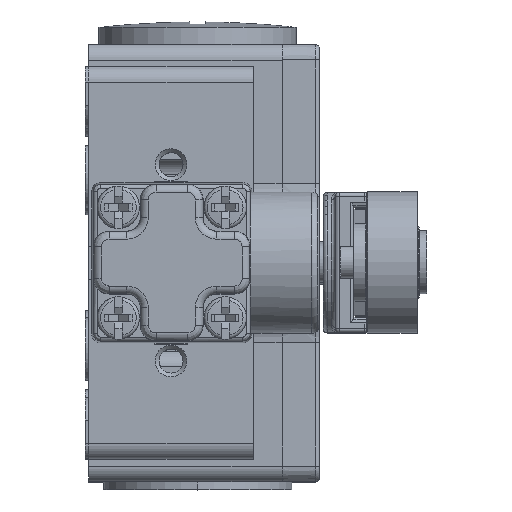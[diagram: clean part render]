
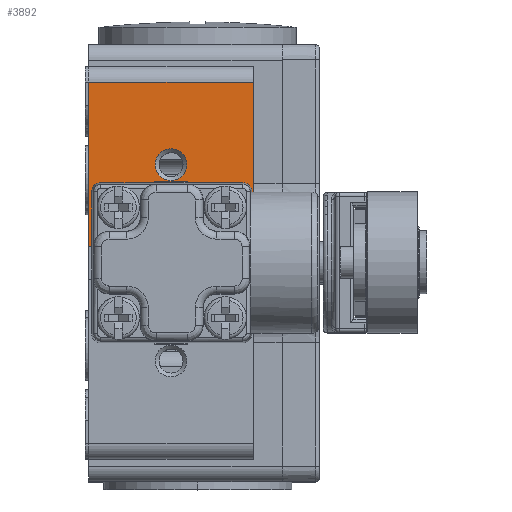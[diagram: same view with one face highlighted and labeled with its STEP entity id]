
A CAD part, top view. The second image highlights one B-rep face of the part: STEP entity #3892.
In plain terms, the highlighted planar face has unit normal (0, 0, 1).
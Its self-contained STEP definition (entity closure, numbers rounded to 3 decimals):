
#3892=ADVANCED_FACE('',(#6976,#6977),#5838,.T.);
#5838=PLANE('',#37318);
#6976=FACE_BOUND('',#7327,.T.);
#6977=FACE_BOUND('',#7328,.T.);
#7327=EDGE_LOOP('',(#11461));
#7328=EDGE_LOOP('',(#11462,#11463,#11464,#11465,#11466,#11467,#11468,#11469,
#11470,#11471,#11472,#11473,#11474,#11475,#11476,#11477,#11478,#11479,#11480,
#11481,#11482,#11483));
#9476=CIRCLE('',#37311,2.025);
#9477=CIRCLE('',#37312,8.1);
#9478=CIRCLE('',#37313,1.8);
#9479=CIRCLE('',#37314,8.1);
#9480=CIRCLE('',#37315,8.1);
#9481=CIRCLE('',#37316,1.8);
#9482=CIRCLE('',#37317,8.1);
#11461=ORIENTED_EDGE('',*,*,#25692,.T.);
#11462=ORIENTED_EDGE('',*,*,#25693,.T.);
#11463=ORIENTED_EDGE('',*,*,#25650,.F.);
#11464=ORIENTED_EDGE('',*,*,#25694,.F.);
#11465=ORIENTED_EDGE('',*,*,#25695,.F.);
#11466=ORIENTED_EDGE('',*,*,#25696,.F.);
#11467=ORIENTED_EDGE('',*,*,#25697,.T.);
#11468=ORIENTED_EDGE('',*,*,#25698,.T.);
#11469=ORIENTED_EDGE('',*,*,#25699,.T.);
#11470=ORIENTED_EDGE('',*,*,#25700,.F.);
#11471=ORIENTED_EDGE('',*,*,#25701,.F.);
#11472=ORIENTED_EDGE('',*,*,#25702,.T.);
#11473=ORIENTED_EDGE('',*,*,#25703,.F.);
#11474=ORIENTED_EDGE('',*,*,#25704,.F.);
#11475=ORIENTED_EDGE('',*,*,#25705,.F.);
#11476=ORIENTED_EDGE('',*,*,#25706,.F.);
#11477=ORIENTED_EDGE('',*,*,#25707,.T.);
#11478=ORIENTED_EDGE('',*,*,#25708,.T.);
#11479=ORIENTED_EDGE('',*,*,#25709,.T.);
#11480=ORIENTED_EDGE('',*,*,#25710,.F.);
#11481=ORIENTED_EDGE('',*,*,#25711,.F.);
#11482=ORIENTED_EDGE('',*,*,#25712,.T.);
#11483=ORIENTED_EDGE('',*,*,#25388,.T.);
#21772=VERTEX_POINT('',#51292);
#21773=VERTEX_POINT('',#51294);
#22008=VERTEX_POINT('',#51824);
#22009=VERTEX_POINT('',#51826);
#22049=VERTEX_POINT('',#51909);
#22050=VERTEX_POINT('',#51912);
#22051=VERTEX_POINT('',#51914);
#22052=VERTEX_POINT('',#51916);
#22053=VERTEX_POINT('',#51918);
#22054=VERTEX_POINT('',#51920);
#22055=VERTEX_POINT('',#51922);
#22056=VERTEX_POINT('',#51924);
#22057=VERTEX_POINT('',#51926);
#22058=VERTEX_POINT('',#51928);
#22059=VERTEX_POINT('',#51930);
#22060=VERTEX_POINT('',#51932);
#22061=VERTEX_POINT('',#51934);
#22062=VERTEX_POINT('',#51936);
#22063=VERTEX_POINT('',#51938);
#22064=VERTEX_POINT('',#51940);
#22065=VERTEX_POINT('',#51942);
#22066=VERTEX_POINT('',#51944);
#22067=VERTEX_POINT('',#51946);
#25388=EDGE_CURVE('',#21773,#21772,#30714,.T.);
#25650=EDGE_CURVE('',#22008,#22009,#30911,.T.);
#25692=EDGE_CURVE('',#22049,#22049,#9476,.T.);
#25693=EDGE_CURVE('',#21772,#22009,#30944,.T.);
#25694=EDGE_CURVE('',#22050,#22008,#30945,.T.);
#25695=EDGE_CURVE('',#22051,#22050,#30946,.T.);
#25696=EDGE_CURVE('',#22052,#22051,#30947,.T.);
#25697=EDGE_CURVE('',#22052,#22053,#9477,.T.);
#25698=EDGE_CURVE('',#22053,#22054,#9478,.T.);
#25699=EDGE_CURVE('',#22054,#22055,#9479,.T.);
#25700=EDGE_CURVE('',#22056,#22055,#30948,.T.);
#25701=EDGE_CURVE('',#22057,#22056,#30949,.T.);
#25702=EDGE_CURVE('',#22057,#22058,#30950,.T.);
#25703=EDGE_CURVE('',#22059,#22058,#30951,.T.);
#25704=EDGE_CURVE('',#22060,#22059,#30952,.T.);
#25705=EDGE_CURVE('',#22061,#22060,#30953,.T.);
#25706=EDGE_CURVE('',#22062,#22061,#30954,.T.);
#25707=EDGE_CURVE('',#22062,#22063,#9480,.T.);
#25708=EDGE_CURVE('',#22063,#22064,#9481,.T.);
#25709=EDGE_CURVE('',#22064,#22065,#9482,.T.);
#25710=EDGE_CURVE('',#22066,#22065,#30955,.T.);
#25711=EDGE_CURVE('',#22067,#22066,#30956,.T.);
#25712=EDGE_CURVE('',#22067,#21773,#30957,.T.);
#30714=LINE('',#51293,#33953);
#30911=LINE('',#51825,#34150);
#30944=LINE('',#51910,#34183);
#30945=LINE('',#51911,#34184);
#30946=LINE('',#51913,#34185);
#30947=LINE('',#51915,#34186);
#30948=LINE('',#51923,#34187);
#30949=LINE('',#51925,#34188);
#30950=LINE('',#51927,#34189);
#30951=LINE('',#51929,#34190);
#30952=LINE('',#51931,#34191);
#30953=LINE('',#51933,#34192);
#30954=LINE('',#51935,#34193);
#30955=LINE('',#51943,#34194);
#30956=LINE('',#51945,#34195);
#30957=LINE('',#51947,#34196);
#33953=VECTOR('',#40896,1.);
#34150=VECTOR('',#41259,1.);
#34183=VECTOR('',#41314,1.);
#34184=VECTOR('',#41315,1.);
#34185=VECTOR('',#41316,1.);
#34186=VECTOR('',#41317,1.);
#34187=VECTOR('',#41324,1.);
#34188=VECTOR('',#41325,1.);
#34189=VECTOR('',#41326,1.);
#34190=VECTOR('',#41327,1.);
#34191=VECTOR('',#41328,1.);
#34192=VECTOR('',#41329,1.);
#34193=VECTOR('',#41330,1.);
#34194=VECTOR('',#41337,1.);
#34195=VECTOR('',#41338,1.);
#34196=VECTOR('',#41339,1.);
#37311=AXIS2_PLACEMENT_3D('',#51908,#41312,#41313);
#37312=AXIS2_PLACEMENT_3D('',#51917,#41318,#41319);
#37313=AXIS2_PLACEMENT_3D('',#51919,#41320,#41321);
#37314=AXIS2_PLACEMENT_3D('',#51921,#41322,#41323);
#37315=AXIS2_PLACEMENT_3D('',#51937,#41331,#41332);
#37316=AXIS2_PLACEMENT_3D('',#51939,#41333,#41334);
#37317=AXIS2_PLACEMENT_3D('',#51941,#41335,#41336);
#37318=AXIS2_PLACEMENT_3D('',#51948,#41340,#41341);
#40896=DIRECTION('',(0.,1.,0.));
#41259=DIRECTION('',(0.,1.,0.));
#41312=DIRECTION('',(0.,0.,-1.));
#41313=DIRECTION('',(1.,0.,0.));
#41314=DIRECTION('',(-1.,0.,0.));
#41315=DIRECTION('',(-1.,0.,0.));
#41316=DIRECTION('',(0.,-1.,0.));
#41317=DIRECTION('',(-1.,0.,0.));
#41318=DIRECTION('',(0.,0.,-1.));
#41319=DIRECTION('',(-0.644,0.765,0.));
#41320=DIRECTION('',(0.,0.,-1.));
#41321=DIRECTION('',(0.441,-0.898,0.));
#41322=DIRECTION('',(0.,0.,-1.));
#41323=DIRECTION('',(-0.644,0.765,0.));
#41324=DIRECTION('',(0.,-1.,0.));
#41325=DIRECTION('',(-1.,0.,0.));
#41326=DIRECTION('',(0.,1.,0.));
#41327=DIRECTION('',(-1.,0.,0.));
#41328=DIRECTION('',(0.,1.,0.));
#41329=DIRECTION('',(-1.,0.,0.));
#41330=DIRECTION('',(0.,1.,0.));
#41331=DIRECTION('',(0.,0.,-1.));
#41332=DIRECTION('',(0.742,0.671,0.));
#41333=DIRECTION('',(0.,0.,-1.));
#41334=DIRECTION('',(-0.881,-0.473,0.));
#41335=DIRECTION('',(0.,0.,-1.));
#41336=DIRECTION('',(0.742,0.671,0.));
#41337=DIRECTION('',(-1.,0.,0.));
#41338=DIRECTION('',(0.,1.,0.));
#41339=DIRECTION('',(1.,0.,0.));
#41340=DIRECTION('',(0.,0.,1.));
#41341=DIRECTION('',(1.,0.,0.));
#51292=CARTESIAN_POINT('',(-105.58,-426.702,128.763));
#51293=CARTESIAN_POINT('',(-105.58,-434.252,128.763));
#51294=CARTESIAN_POINT('',(-105.58,-447.602,128.763));
#51824=CARTESIAN_POINT('',(-126.58,-447.602,128.763));
#51825=CARTESIAN_POINT('',(-126.58,-434.252,128.763));
#51826=CARTESIAN_POINT('',(-126.58,-426.702,128.763));
#51908=CARTESIAN_POINT('',(-116.08,-437.202,128.763));
#51909=CARTESIAN_POINT('',(-114.055,-437.202,128.763));
#51910=CARTESIAN_POINT('',(-111.68,-426.702,128.763));
#51911=CARTESIAN_POINT('',(-126.68,-447.602,128.763));
#51912=CARTESIAN_POINT('',(-125.28,-447.602,128.763));
#51913=CARTESIAN_POINT('',(-125.28,-446.702,128.763));
#51914=CARTESIAN_POINT('',(-125.28,-446.702,128.763));
#51915=CARTESIAN_POINT('',(-123.604,-446.702,128.763));
#51916=CARTESIAN_POINT('',(-123.604,-446.702,128.763));
#51917=CARTESIAN_POINT('',(-116.08,-449.702,128.763));
#51918=CARTESIAN_POINT('',(-121.835,-444.002,128.763));
#51919=CARTESIAN_POINT('',(-123.08,-442.702,128.763));
#51920=CARTESIAN_POINT('',(-121.781,-443.947,128.763));
#51921=CARTESIAN_POINT('',(-116.08,-449.702,128.763));
#51922=CARTESIAN_POINT('',(-119.08,-442.178,128.763));
#51923=CARTESIAN_POINT('',(-119.08,-440.502,128.763));
#51924=CARTESIAN_POINT('',(-119.08,-440.502,128.763));
#51925=CARTESIAN_POINT('',(-117.08,-440.502,128.763));
#51926=CARTESIAN_POINT('',(-118.18,-440.502,128.763));
#51927=CARTESIAN_POINT('',(-118.18,-434.252,128.763));
#51928=CARTESIAN_POINT('',(-118.18,-439.352,128.763));
#51929=CARTESIAN_POINT('',(-115.08,-439.352,128.763));
#51930=CARTESIAN_POINT('',(-113.98,-439.352,128.763));
#51931=CARTESIAN_POINT('',(-113.98,-434.252,128.763));
#51932=CARTESIAN_POINT('',(-113.98,-440.502,128.763));
#51933=CARTESIAN_POINT('',(-113.08,-440.502,128.763));
#51934=CARTESIAN_POINT('',(-113.08,-440.502,128.763));
#51935=CARTESIAN_POINT('',(-113.08,-442.178,128.763));
#51936=CARTESIAN_POINT('',(-113.08,-442.178,128.763));
#51937=CARTESIAN_POINT('',(-116.08,-449.702,128.763));
#51938=CARTESIAN_POINT('',(-110.38,-443.947,128.763));
#51939=CARTESIAN_POINT('',(-109.08,-442.702,128.763));
#51940=CARTESIAN_POINT('',(-110.326,-444.002,128.763));
#51941=CARTESIAN_POINT('',(-116.08,-449.702,128.763));
#51942=CARTESIAN_POINT('',(-108.556,-446.702,128.763));
#51943=CARTESIAN_POINT('',(-106.88,-446.702,128.763));
#51944=CARTESIAN_POINT('',(-106.88,-446.702,128.763));
#51945=CARTESIAN_POINT('',(-106.88,-447.652,128.763));
#51946=CARTESIAN_POINT('',(-106.88,-447.602,128.763));
#51947=CARTESIAN_POINT('',(-126.68,-447.602,128.763));
#51948=CARTESIAN_POINT('',(-126.68,-434.252,128.763));
